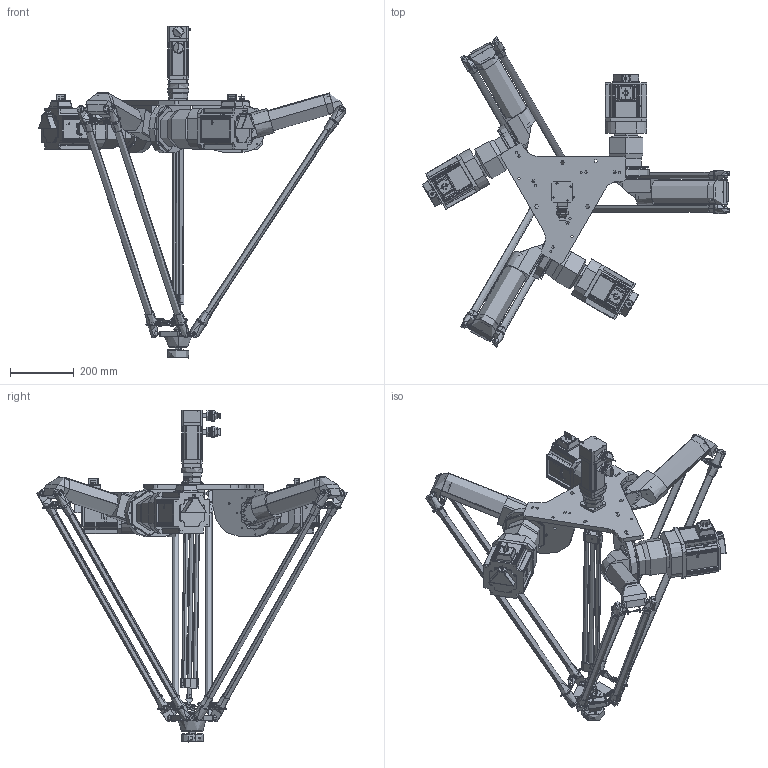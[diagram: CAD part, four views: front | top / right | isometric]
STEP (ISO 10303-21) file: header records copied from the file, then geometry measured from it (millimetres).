
FILE_DESCRIPTION (( 'STEP AP203' ), '1' );
FILE_NAME ('20231103-甜薊眯絇忒15KG.STEP', '2023-11-03T05:27:35', ( 'MM' ), ( 'Microsoft' ), 'SwSTEP 2.0', 'SolidWorks 2018', '' );
FILE_SCHEMA (( 'CONFIG_CONTROL_DESIGN' ));
Length unit declared in the file: millimetre
Products named in the file (40): 20231024-眯絇忒啊旋; 錨璃58; 錨璃68; 錨璃44; 錨璃66; 驱动电机; 20231102-15KG---粟銅 ; 錨璃72; 錨璃40; 20231102粟銅像; 錨璃54; 錨璃45; 萇儂; 錨璃55; 20231024-眯絇忒笢潔蟀裝; 錨璃74; 錨璃49; 錨璃62; 20231025-400W防爆伺服电机带刹车; 錨璃70; 錨璃52; 錨璃57; 錨璃47; 熬厒儂; 錨璃71; 錨璃43; 錨璃42; 錨璃75; 錨璃73; 20231103-甜薊眯絇忒15KG; 錨璃50; 20231024-眯絇蟀裝; 錨璃59; 錨璃53; 錨璃69; 錨璃39; 錨璃63; 錨璃41; 20231024-眯絇忒菁攫
Assembly tree (75 placements, depth 3):
  20231103-甜薊眯絇忒15KG
    錨璃58
    萇儂
    錨璃59  x3
    熬厒儂  x3
    錨璃74
    錨璃73
    錨璃72
    錨璃69  x2
    錨璃71  x2
    錨璃70  x2
    20231024-眯絇忒笢潔蟀裝
      錨璃53
      錨璃55  x4
      錨璃57  x2
      錨璃49
    20231024-眯絇忒啊旋  x3
      錨璃40
      錨璃41
      錨璃42
      錨璃39
    20231024-眯絇忒菁攫
      錨璃62
      錨璃66  x2
      錨璃75
      錨璃63  x6
    錨璃50
    錨璃47
    錨璃52
    20231024-眯絇蟀裝  x6
      錨璃44
      錨璃43
      錨璃45
    錨璃54
    錨璃68
    驱动电机  x3
    20231102粟銅像  x6
      20231102粟銅像
      20231102-15KG---粟銅 
    20231025-400W防爆伺服电机带刹车
Bounding box: 965.2 x 975.4 x 1043.12 mm (x, y, z)
Topology: 96 solids, 638 shells, 9058 faces, 25578 edges, 17282 vertices
Faces by surface type: cylinder 4642, plane 3322, torus 468, cone 467, bspline 84, sphere 75
Full cylindrical faces by diameter (mm): 0.3 x3, 0.5 x6
Entity records: 150976 total; most frequent: CARTESIAN_POINT 73163, ORIENTED_EDGE 16306, DIRECTION 10534, EDGE_CURVE 9401, B_SPLINE_CURVE_WITH_KNOTS 6808, VERTEX_POINT 6425, AXIS2_PLACEMENT_3D 4636, EDGE_LOOP 3900
